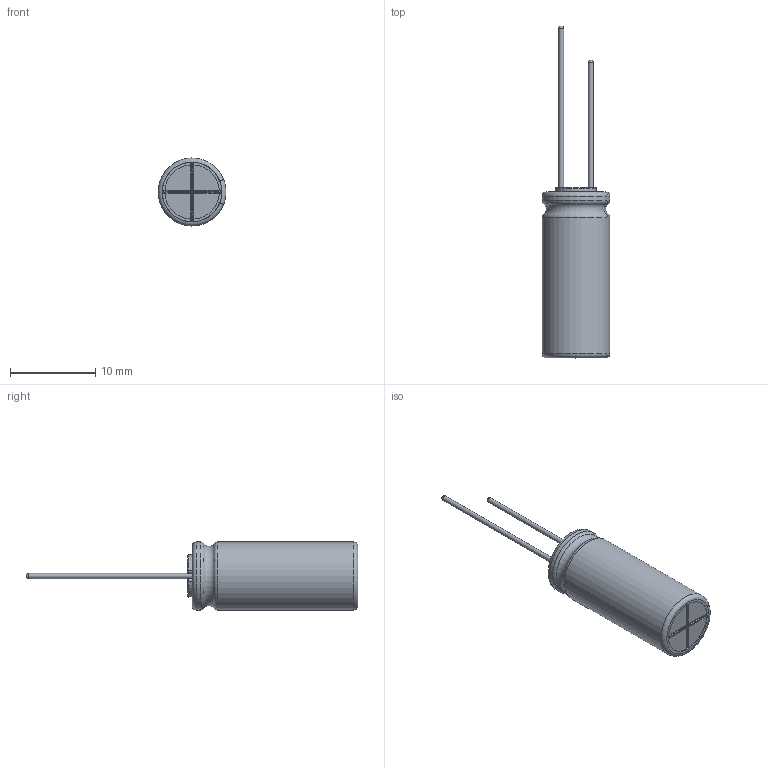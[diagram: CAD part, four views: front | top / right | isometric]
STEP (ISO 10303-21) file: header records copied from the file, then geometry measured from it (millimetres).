
FILE_DESCRIPTION(/* description */ (''),/* implementation_level */ '2;1');
FILE_NAME(/* name */ '8x20_Lead.stp',/* time_stamp */ '2017-09-05T13:59:06+09:00',/* author */ (''),/* organization */ (''),/* preprocessor_version */ 'ST-DEVELOPER v16',/* originating_system */ 'SIEMENS PLM Software NX 11.0',/* authorisation */ '');
FILE_SCHEMA (('AUTOMOTIVE_DESIGN { 1 0 10303 214 3 1 1 1 }'));
Length unit declared in the file: millimetre
Products named in the file (1): 8x20_Lead_0
Bounding box: 7.99 x 39 x 8 mm (x, y, z)
Volume: 978.5 mm3; surface area: 1673.1 mm2
Topology: 3 solids, 3 shells, 115 faces, 288 edges, 181 vertices
Faces by surface type: cylinder 44, torus 33, plane 28, sphere 6, bspline 4
Full cylindrical faces by diameter (mm): 0.6 x2, 7.8 x2
Entity records: 4020 total; most frequent: CARTESIAN_POINT 680, DIRECTION 664, ORIENTED_EDGE 544, AXIS2_PLACEMENT_3D 280, EDGE_CURVE 272, VERTEX_POINT 176, CIRCLE 160, EDGE_LOOP 128
